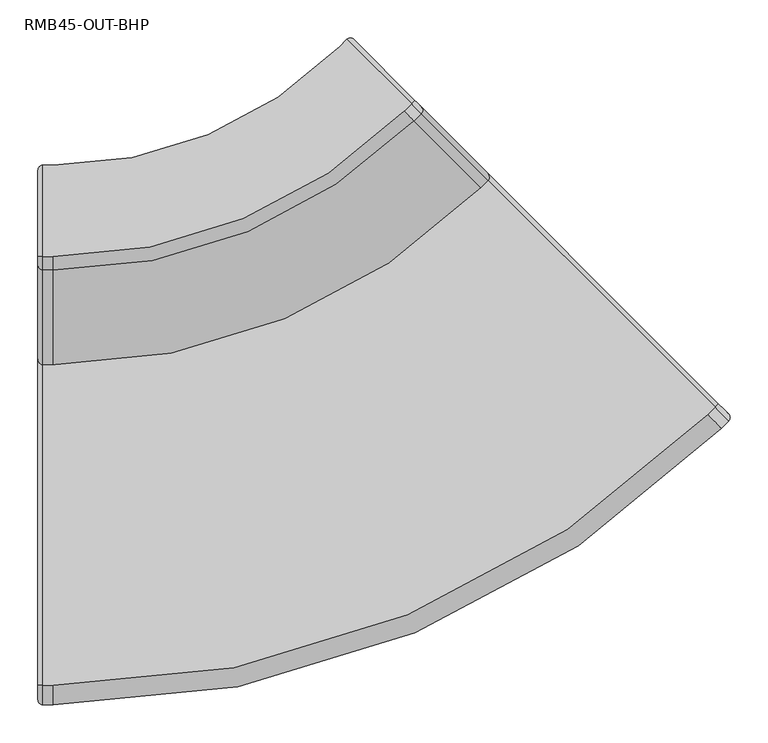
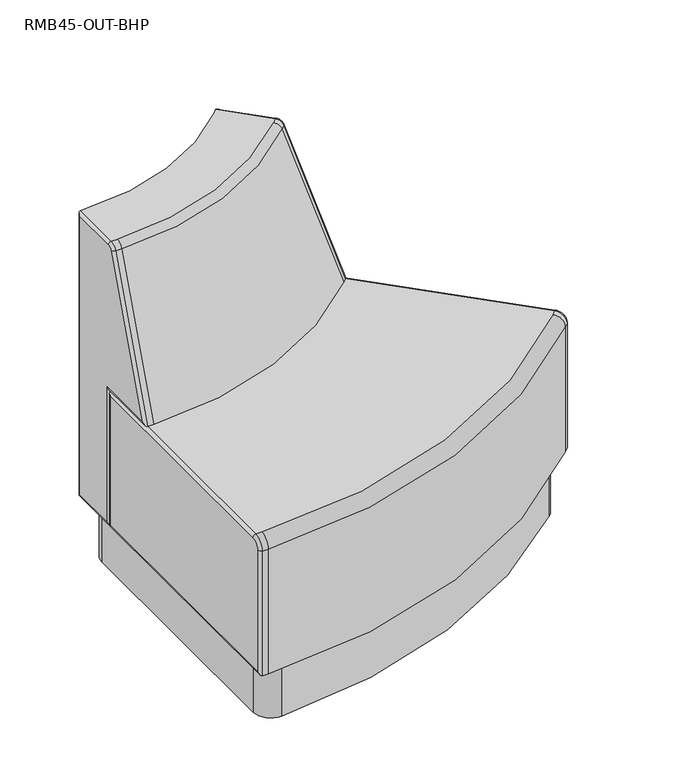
"""IFC4 building model written with IfcOpenShell, lengths in millimetres: furniture geometry, Stance_HC-Rosetta-45_Curve_Outside_Plinth_Base : RMB45-OUT-BHP."""

from ifc_helpers import new_model, si_unit, point, frame, frame_2d, origin, origin_with_axes, place, context, project, spatial, polyline, circle_curve, ellipse_curve, trimmed, segment, composite_curve, outline, extrude, source, transform, mapped, element, save
from ifc_brep_helpers import plane_surface, cylinder_surface, revolved_surface, advanced_brep


def rmb45_out_bhp_de5602b4(model_context):
    return source(origin(), model_context, "Body", "SolidModel", [
        extrude(outline(composite_curve([segment(trimmed(circle_curve(frame_2d((410.6900803, 86.7134085)), 39.6875), [point((384.5671481, 116.5913279))], [point((438.7533807, 114.7767088))], False, "CARTESIAN"), True, "CONTINUOUS"), segment(polyline([(438.7533807, 114.7767088), (857.3882175, -303.858128)]), True, "CONTINUOUS"), segment(trimmed(circle_curve(frame_2d((829.3249171, -331.9214284)), 39.6875), [point((857.3882175, -303.858128))], [point((856.4322562, -360.9091814))], False, "CARTESIAN"), True, "CONTINUOUS"), segment(trimmed(circle_curve(frame_2d((20.225, 533.3050895)), 1224.2800895), [point((856.4322562, -360.9091814))], [point((61.2421535, -690.2877066))], False, "CARTESIAN"), True, "CONTINUOUS"), segment(trimmed(circle_curve(frame_2d((59.9125, -650.6224866)), 39.6875), [point((61.2421535, -690.2877066))], [point((20.225, -650.6224866))], False, "CARTESIAN"), True, "CONTINUOUS"), segment(polyline([(20.225, -650.6224866), (20.225, -58.5834227)]), True, "CONTINUOUS"), segment(trimmed(circle_curve(frame_2d((59.9125, -58.5834227)), 39.6875), [point((20.225, -58.5834227))], [point((57.2573231, -18.9848407))], False, "CARTESIAN"), True, "CONTINUOUS"), segment(trimmed(circle_curve(frame_2d((20.225, 533.3050895)), 553.5300895), [point((57.2573231, -18.9848407))], [point((384.5671481, 116.5913279))], True, "CARTESIAN"), True, "CONTINUOUS")], self_intersect=False)), frame((0.0, 0.0, 6.3627), z_axis=(0.0, 0.0, 1.0), x_axis=(1.0, 0.0, 0.0)), (0.0, 0.0, 1.0), 128.51892),
        advanced_brep(
        [(482.6410784, 70.8890111, 457.2), (20.225, -120.65, 457.2), (6.35, -120.65, 457.2), (6.35, -685.7999758, 457.2), (20.225, -685.7999758, 457.2), (882.2624586, -328.7323691, 457.2), (892.0735652, -318.9212625, 457.2), (492.452185, 80.7001177, 457.2), (482.6410784, 70.8890111, 134.88162), (20.225, -120.65, 134.88162), (492.452185, 80.7001177, 134.88162), (910.0340775, -336.8817748, 134.88162), (900.2229709, -346.6928814, 134.88162), (20.225, -711.1999758, 134.88162), (6.35, -711.1999758, 134.88162), (6.35, -120.65, 134.88162), (900.2229709, -346.6928814, 431.8), (20.225, -711.1999758, 431.8), (910.0340775, -327.9015187, 431.8), (896.5636933, -314.4311345, 450.85), (910.0340775, -336.8817748, 431.8), (910.0340775, -327.9015187, 141.23162), (501.4324411, 80.7001177, 141.23162), (501.4324411, 80.7001177, 450.85), (0.0, -127.0, 141.23162), (0.0, -127.0, 450.85), (0.0, -704.8499758, 141.23162), (6.35, -711.1999758, 431.8), (0.0, -704.8499758, 431.8), (0.0, -685.7999758, 450.85)],
        [
            (0, 1, circle_curve(frame((20.225, 533.3050895, 457.2), z_axis=(0.0, 0.0, -1.0), x_axis=(0.0, -1.0, 0.0)), 653.9550895)),
            (1, 2),
            (2, 3),
            (3, 4),
            (4, 5, circle_curve(frame((20.225, 533.3050895, 457.2), z_axis=(0.0, 0.0, 1.0), x_axis=(0.0, -1.0, 0.0)), 1219.1050653)),
            (5, 6),
            (6, 7),
            (7, 0),
            (0, 8),
            (8, 9, circle_curve(frame((20.225, 533.3050895, 134.88162), z_axis=(0.0, 0.0, -1.0), x_axis=(0.0, -1.0, 0.0)), 653.9550895)),
            (9, 1),
            (8, 10),
            (10, 11),
            (11, 12),
            (12, 13, circle_curve(frame((20.225, 533.3050895, 134.88162), z_axis=(0.0, 0.0, -1.0), x_axis=(0.0, -1.0, 0.0)), 1244.5050653)),
            (13, 14),
            (14, 15),
            (15, 9),
            (12, 16),
            (16, 17, circle_curve(frame((20.225, 533.3050895, 431.8), z_axis=(0.0, 0.0, -1.0), x_axis=(0.0, -1.0, 0.0)), 1244.5050653)),
            (17, 13),
            (4, 17, circle_curve(frame((20.225, -685.7999758, 431.8), z_axis=(1.0, 0.0, 0.0), x_axis=(0.0, 1.0, 0.0)), 25.4)),
            (16, 5, circle_curve(frame((882.2624586, -328.7323691, 431.8), z_axis=(-0.7071067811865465, -0.7071067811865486, 0.0), x_axis=(-0.7071067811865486, 0.7071067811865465, 0.0)), 25.4)),
            (18, 19, circle_curve(frame((896.5636933, -314.4311345, 431.8), z_axis=(-0.7071067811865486, -0.7071067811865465, 0.0), x_axis=(0.0, 0.0, 1.0)), 19.05)),
            (19, 6, circle_curve(frame((892.0735652, -318.9212625, 450.85), z_axis=(0.7071067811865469, -0.7071067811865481, 0.0), x_axis=(0.0, 0.0, -1.0)), 6.35)),
            (6, 20, circle_curve(frame((892.0735652, -318.9212625, 431.8), z_axis=(0.7071067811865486, 0.7071067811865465, 0.0), x_axis=(0.0, 0.0, 1.0)), 25.4)),
            (20, 18, circle_curve(frame((905.5439494, -332.3916467, 431.8), z_axis=(0.0, 0.0, 1.0), x_axis=(-0.7071067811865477, 0.7071067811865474, 0.0)), 6.35)),
            (16, 20),
            (20, 11),
            (11, 21, ellipse_curve(frame((905.5439494, -332.3916467, 141.23162), z_axis=(0.4999999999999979, -0.5000000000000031, 0.7071067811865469), x_axis=(-0.5000000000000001, 0.49999999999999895, 0.707106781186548)), 8.9802561, 6.35)),
            (21, 18),
            (10, 22, ellipse_curve(frame((496.942313, 76.2099897, 141.23162), z_axis=(0.49999999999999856, -0.4999999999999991, -0.707106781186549), x_axis=(0.49999999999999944, -0.500000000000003, 0.7071067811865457)), 8.9802561, 6.35)),
            (22, 21),
            (10, 7),
            (7, 23, ellipse_curve(frame((496.942313, 76.2099897, 450.85), z_axis=(-0.49999999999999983, 0.5000000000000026, -0.7071067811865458), x_axis=(0.4999999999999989, -0.49999999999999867, -0.7071067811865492)), 8.9802561, 6.35)),
            (23, 22),
            (19, 23),
            (15, 2),
            (15, 24, ellipse_curve(frame((6.35, -127.0, 141.23162), z_axis=(0.0, 0.7071067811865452, 0.7071067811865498), x_axis=(0.0, -0.7071067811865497, 0.7071067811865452)), 8.9802561, 6.35)),
            (24, 25),
            (25, 2, ellipse_curve(frame((6.35, -127.0, 450.85), z_axis=(0.0, 0.7071067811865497, -0.7071067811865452), x_axis=(0.0, 0.7071067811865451, 0.7071067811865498)), 8.9802561, 6.35)),
            (14, 26, ellipse_curve(frame((6.35, -704.8499758, 141.23162), z_axis=(0.0, 0.7071067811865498, -0.7071067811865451), x_axis=(0.0, 0.7071067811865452, 0.7071067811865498)), 8.9802561, 6.35)),
            (26, 24),
            (17, 27),
            (27, 14),
            (27, 28, circle_curve(frame((6.35, -704.8499758, 431.8), z_axis=(0.0, 0.0, -1.0), x_axis=(0.0, -1.0, 0.0)), 6.35)),
            (28, 26),
            (3, 27, circle_curve(frame((6.35, -685.7999758, 431.8), z_axis=(1.0, 0.0, 0.0), x_axis=(0.0, -1.0, 0.0)), 25.4)),
            (3, 29, circle_curve(frame((6.35, -685.7999758, 450.85), z_axis=(0.0, -1.0, 0.0), x_axis=(0.0, 0.0, 1.0)), 6.35)),
            (29, 28, circle_curve(frame((0.0, -685.7999758, 431.8), z_axis=(1.0, 0.0, 0.0), x_axis=(0.0, -1.0, 0.0)), 19.05)),
            (25, 29),
        ],
        [
            plane_surface(frame((20.225, 533.3050895, 457.2), z_axis=(0.0, 0.0, 1.0), x_axis=(0.0, -1.0, 0.0))),
            revolved_surface(polyline([(20.225, -120.64999999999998, 457.2), (20.225, -120.64999999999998, 134.88162)]), (20.225, 533.3050895, 618.9648354), (0.0, 0.0, 1.0)),
            plane_surface(frame((20.225, 533.3050895, 134.88162), z_axis=(0.0, 0.0, -1.0), x_axis=(0.0, -1.0, 0.0))),
            cylinder_surface(frame((20.225, 533.3050895, 618.9648354), z_axis=(0.0, 0.0, 1.0), x_axis=(0.0, -1.0, 0.0)), 1244.5050653),
            revolved_surface(trimmed(ellipse_curve(frame((20.225, -685.7999758, 431.8), z_axis=(-1.0, 0.0, 0.0), x_axis=(0.0, 1.0, 0.0)), 25.4, 25.4), [point((20.225, -711.1999758, 431.8))], [point((20.225, -685.7999758, 457.2))], True, "CARTESIAN"), (20.225, 533.3050895, 618.9648354), (0.0, 0.0, 1.0)),
            revolved_surface(trimmed(ellipse_curve(frame((892.0735652, -318.9212625, 450.85), z_axis=(-0.7071067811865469, 0.7071067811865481, 0.0), x_axis=(0.0, 0.0, -1.0)), 6.35, 6.35), [point((892.0735652, -318.9212625, 457.2))], [point((896.5636933, -314.4311345, 450.85))], True, "CARTESIAN"), (882.2624586, -328.7323691, 431.8), (0.7071067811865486, 0.7071067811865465, 0.0)),
            cylinder_surface(frame((882.2624586, -328.7323691, 431.8), z_axis=(0.7071067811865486, 0.7071067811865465, 0.0), x_axis=(0.0, 0.0, 1.0)), 25.4),
            cylinder_surface(frame((905.5439494, -332.3916467, 431.8), z_axis=(0.0, 0.0, 1.0), x_axis=(-0.7071067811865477, 0.7071067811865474, 0.0)), 6.35),
            plane_surface(frame((900.2229709, -346.6928814, 431.8), z_axis=(0.7071067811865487, -0.7071067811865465, 0.0), x_axis=(0.0, 0.0, -1.0))),
            cylinder_surface(frame((910.0340775, -336.8817748, 141.23162), z_axis=(0.7071067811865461, -0.707106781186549, 0.0), x_axis=(0.0, 0.0, 1.0)), 6.35),
            cylinder_surface(frame((496.942313, 76.2099897, 134.88162), z_axis=(0.0, 0.0, -1.0000000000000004), x_axis=(0.7071067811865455, -0.7071067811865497, 0.0)), 6.35),
            plane_surface(frame((482.6410784, 70.8890111, 134.88162), z_axis=(-0.7071067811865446, 0.7071067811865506, 0.0), x_axis=(0.0, 0.0, 1.0))),
            cylinder_surface(frame((492.452185, 80.7001177, 450.85), z_axis=(-0.7071067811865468, 0.7071067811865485, 0.0), x_axis=(0.0, 0.0, -1.0)), 6.35),
            plane_surface(frame((501.4324411, 80.7001177, 450.85), z_axis=(0.7071067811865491, 0.7071067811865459, 0.0), x_axis=(0.7071067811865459, -0.7071067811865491, 0.0))),
            plane_surface(frame((20.225, -120.65, 457.2), z_axis=(0.0, 1.0, 0.0), x_axis=(0.0, 0.0, -1.0))),
            cylinder_surface(frame((6.35, -127.0, 457.2), z_axis=(0.0, 0.0, 1.0), x_axis=(0.0, 1.0, 0.0)), 6.35),
            cylinder_surface(frame((6.35, -120.65, 141.23162), z_axis=(0.0, 1.0, 0.0), x_axis=(0.0, 0.0, -1.0)), 6.35),
            plane_surface(frame((20.225, -711.1999758, 134.88162), z_axis=(0.0, -1.0, 0.0), x_axis=(0.0, 0.0, 1.0))),
            cylinder_surface(frame((6.35, -704.8499758, 134.88162), z_axis=(0.0, 0.0, -1.0), x_axis=(0.0, -1.0, 0.0)), 6.35),
            cylinder_surface(frame((0.0, -685.7999758, 431.8), z_axis=(-1.0, 0.0, 0.0), x_axis=(0.0, -1.0, 0.0)), 25.4),
            revolved_surface(trimmed(ellipse_curve(frame((6.35, -704.8499758, 431.8), z_axis=(0.0, 0.0, -1.0), x_axis=(0.0, -1.0, 0.0)), 6.35, 6.35), [point((6.35, -711.1999758, 431.8))], [point((0.0, -704.8499758, 431.8))], True, "CARTESIAN"), (0.0, -685.7999758, 431.8), (-1.0, 0.0, 0.0)),
            cylinder_surface(frame((6.35, -685.7999758, 450.85), z_axis=(0.0, -1.0, 0.0), x_axis=(0.0, 0.0, 1.0)), 6.35),
            plane_surface(frame((0.0, -685.7999758, 450.85), z_axis=(-1.0, 0.0, 0.0), x_axis=(0.0, 1.0, 0.0))),
        ],
        [
            (0, [[1, 2, 3, 4, 5, 6, 7, 8]]),
            (1, [[-1, 9, 10, 11]]),
            (2, [[-10, 12, 13, 14, 15, 16, 17, 18]]),
            (3, [[-15, 19, 20, 21]]),
            (4, [[-5, 22, -20, 23]]),
            (5, [[24, 25, 26, 27]]),
            (6, [[-26, -6, -23, 28]]),
            (7, [[-27, 29, 30, 31]]),
            (8, [[-28, -19, -14, -29]]),
            (9, [[-30, -13, 32, 33]]),
            (10, [[-32, 34, 35, 36]]),
            (11, [[-12, -9, -8, -34]]),
            (12, [[-25, 37, -35, -7]]),
            (13, [[-24, -31, -33, -36, -37]]),
            (14, [[-2, -11, -18, 38]]),
            (15, [[-38, 39, 40, 41]]),
            (16, [[-39, -17, 42, 43]]),
            (17, [[-16, -21, 44, 45]]),
            (18, [[-42, -45, 46, 47]]),
            (19, [[-44, -22, -4, 48]]),
            (20, [[-46, -48, 49, 50]]),
            (21, [[-41, 51, -49, -3]]),
            (22, [[-40, -43, -47, -50, -51]]),
        ],
    ),
        advanced_brep(
        [(583.3989879, -29.8688984, 457.2), (20.225, -263.1432022, 457.2), (6.35, -263.1432022, 457.2), (6.35, -120.65, 457.2), (20.225, -120.65, 457.2), (482.6410784, 70.8890111, 457.2), (492.452185, 80.7001177, 457.2), (593.2100945, -20.0577918, 457.2), (495.1056581, 58.4244314, 800.2654837), (20.225, -138.2775777, 800.2654837), (482.4476375, 71.082452, 812.8), (20.225, -120.3764333, 812.8), (492.2587441, 80.8935586, 812.8), (407.1397518, 166.0125509, 812.8), (397.3286452, 156.2014443, 812.8), (20.225, 0.0, 812.8), (6.35, 0.0, 812.8), (6.35, -120.3764333, 812.8), (397.3286452, 156.2014443, 134.88162), (20.225, 0.0, 134.88162), (407.1397518, 166.0125509, 134.88162), (492.452185, 80.7001177, 134.88162), (482.6410784, 70.8890111, 134.88162), (20.225, -120.65, 134.88162), (6.35, -120.65, 134.88162), (6.35, 0.0, 134.88162), (0.0, -6.35, 141.23162), (0.0, -6.35, 806.45), (0.0, -114.3, 141.23162), (0.0, -114.3, 463.55), (0.0, -254.0744624, 463.55), (6.35, -138.2775777, 800.2654837), (0.0, -132.3105296, 798.0936558), (0.0, -120.3764333, 806.45), (505.1875526, 76.9450062, 798.0936558), (496.7488722, 85.3836867, 806.45), (504.9167647, 68.235538, 800.2654837), (591.2876551, -9.1550963, 463.55), (492.452185, 89.6803738, 463.55), (492.452185, 89.6803738, 141.23162), (416.1200079, 166.0125509, 141.23162), (416.1200079, 166.0125509, 806.45)],
        [
            (0, 1, circle_curve(frame((20.225, 533.3050895, 457.2), z_axis=(0.0, 0.0, -1.0), x_axis=(0.0, -1.0, 0.0)), 796.4482917)),
            (1, 2),
            (2, 3),
            (3, 4),
            (4, 5, circle_curve(frame((20.225, 533.3050895, 457.2), z_axis=(0.0, 0.0, 1.0), x_axis=(0.0, -1.0, 0.0)), 653.9550895)),
            (5, 6),
            (6, 7),
            (7, 0),
            (0, 8),
            (8, 9, circle_curve(frame((20.225, 533.3050895, 800.2654837), z_axis=(0.0, 0.0, -1.0), x_axis=(0.0, -1.0, 0.0)), 671.5826672)),
            (9, 1),
            (8, 10, circle_curve(frame((482.4476375, 71.082452, 793.75), z_axis=(-0.7071067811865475, -0.7071067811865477, 0.0), x_axis=(-0.7071067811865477, 0.7071067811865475, 0.0)), 19.05)),
            (10, 11, circle_curve(frame((20.225, 533.3050895, 812.8), z_axis=(0.0, 0.0, -1.0), x_axis=(0.0, -1.0, 0.0)), 653.6815228)),
            (11, 9, circle_curve(frame((20.225, -120.3764333, 793.75), z_axis=(1.0, 0.0, 0.0), x_axis=(0.0, 1.0, 0.0)), 19.05)),
            (10, 12),
            (12, 13),
            (13, 14),
            (14, 15, circle_curve(frame((20.225, 533.3050895, 812.8), z_axis=(0.0, 0.0, -1.0), x_axis=(0.0, -1.0, 0.0)), 533.3050895)),
            (15, 16),
            (16, 17),
            (17, 11),
            (14, 18),
            (18, 19, circle_curve(frame((20.225, 533.3050895, 134.88162), z_axis=(0.0, 0.0, -1.0), x_axis=(0.0, -1.0, 0.0)), 533.3050895)),
            (19, 15),
            (18, 20),
            (20, 21),
            (21, 22),
            (22, 23, circle_curve(frame((20.225, 533.3050895, 134.88162), z_axis=(0.0, 0.0, -1.0), x_axis=(0.0, -1.0, 0.0)), 653.9550895)),
            (23, 24),
            (24, 25),
            (25, 19),
            (4, 23),
            (22, 5),
            (25, 16),
            (25, 26, ellipse_curve(frame((6.35, -6.35, 141.23162), z_axis=(0.0, 0.707106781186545, 0.7071067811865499), x_axis=(0.0, -0.7071067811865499, 0.7071067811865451)), 8.9802561, 6.35)),
            (26, 27),
            (27, 16, ellipse_curve(frame((6.35, -6.35, 806.45), z_axis=(0.0, 0.7071067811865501, -0.7071067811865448), x_axis=(0.0, 0.7071067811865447, 0.7071067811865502)), 8.9802561, 6.35)),
            (24, 28, ellipse_curve(frame((6.35, -114.3, 141.23162), z_axis=(0.0, 0.70710678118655, -0.707106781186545), x_axis=(0.0, 0.707106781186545, 0.70710678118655)), 8.9802561, 6.35)),
            (28, 26),
            (3, 24),
            (3, 29, ellipse_curve(frame((6.35, -114.3, 463.55), z_axis=(0.0, 0.7071067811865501, -0.7071067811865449), x_axis=(0.0, -0.7071067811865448, -0.7071067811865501)), 8.9802561, 6.35)),
            (29, 28),
            (2, 30, ellipse_curve(frame((6.35, -254.0744624, 463.55), z_axis=(0.0, 0.5735764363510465, -0.8191520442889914), x_axis=(0.0, 0.8191520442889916, 0.5735764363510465)), 11.0708872, 6.35)),
            (30, 29),
            (9, 31),
            (31, 2),
            (31, 32, circle_curve(frame((6.35, -132.3105296, 798.0936558), z_axis=(0.0, -0.3420201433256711, -0.9396926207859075), x_axis=(0.0, -0.9396926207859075, 0.3420201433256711)), 6.35)),
            (32, 30),
            (17, 31, circle_curve(frame((6.35, -120.3764333, 793.75), z_axis=(1.0, 0.0, 0.0), x_axis=(0.0, -0.9396926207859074, 0.34202014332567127)), 19.05)),
            (17, 33, circle_curve(frame((6.35, -120.3764333, 806.45), z_axis=(0.0, -1.0, 0.0), x_axis=(0.0, 0.0, 1.0)), 6.35)),
            (33, 32, circle_curve(frame((0.0, -120.3764333, 793.75), z_axis=(1.0, 0.0, 0.0), x_axis=(0.0, -0.9396926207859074, 0.34202014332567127)), 12.7)),
            (27, 33),
            (34, 35, circle_curve(frame((496.7488722, 85.3836867, 793.75), z_axis=(-0.7071067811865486, -0.7071067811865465, 0.0), x_axis=(0.0, 0.0, 1.0)), 12.7)),
            (35, 12, circle_curve(frame((492.2587441, 80.8935586, 806.45), z_axis=(0.7071067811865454, -0.7071067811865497, 0.0), x_axis=(0.0, 0.0, -1.0)), 6.35)),
            (12, 36, circle_curve(frame((492.2587441, 80.8935586, 793.75), z_axis=(0.7071067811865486, 0.7071067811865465, 0.0), x_axis=(0.0, 0.0, 1.0)), 19.05)),
            (36, 34, circle_curve(frame((500.6974245, 72.4548782, 798.0936558), z_axis=(-0.2418447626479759, 0.2418447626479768, 0.9396926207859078), x_axis=(-0.6644630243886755, 0.664463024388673, -0.34202014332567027)), 6.35)),
            (8, 36),
            (36, 7),
            (7, 37, ellipse_curve(frame((586.7975271, -13.6452244, 463.55), z_axis=(0.40557978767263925, -0.40557978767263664, 0.8191520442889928), x_axis=(-0.5792279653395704, 0.5792279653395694, 0.5735764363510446)), 11.0708872, 6.35)),
            (37, 34),
            (6, 38, ellipse_curve(frame((487.9620569, 85.1902458, 463.55), z_axis=(0.5000000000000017, -0.4999999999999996, 0.7071067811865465), x_axis=(0.5, -0.4999999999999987, -0.7071067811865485)), 8.9802561, 6.35)),
            (38, 37),
            (6, 21),
            (21, 39, ellipse_curve(frame((487.9620569, 85.1902458, 141.23162), z_axis=(0.5000000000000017, -0.4999999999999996, 0.7071067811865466), x_axis=(-0.49999999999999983, 0.49999999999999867, 0.7071067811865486)), 8.9802561, 6.35)),
            (39, 38),
            (20, 40, ellipse_curve(frame((411.6298799, 161.5224228, 141.23162), z_axis=(0.5000000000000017, -0.49999999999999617, -0.7071067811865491), x_axis=(0.5, -0.5000000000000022, 0.7071067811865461)), 8.9802561, 6.35)),
            (40, 39),
            (20, 13),
            (13, 41, ellipse_curve(frame((411.6298799, 161.5224228, 806.45), z_axis=(-0.49999999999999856, 0.500000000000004, -0.7071067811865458), x_axis=(0.5000000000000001, -0.4999999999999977, -0.7071067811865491)), 8.9802561, 6.35)),
            (41, 40),
            (35, 41),
        ],
        [
            plane_surface(frame((20.225, 533.3050895, 457.2), z_axis=(0.0, 0.0, -1.0), x_axis=(0.0, -1.0, 0.0))),
            revolved_surface(polyline([(20.225, -263.1432022, 457.2), (20.225, -138.2775777, 800.2654837)]), (20.225, 533.3050895, 618.9648354), (0.0, 0.0, 1.0)),
            revolved_surface(trimmed(ellipse_curve(frame((20.225, -120.3764333, 793.75), z_axis=(-1.0, 0.0, 0.0), x_axis=(0.0, 1.0, 0.0)), 19.05, 19.05), [point((20.225, -138.2775777, 800.2654837))], [point((20.225, -120.3764333, 812.8))], True, "CARTESIAN"), (20.225, 533.3050895, 618.9648354), (0.0, 0.0, 1.0)),
            plane_surface(frame((20.225, 533.3050895, 812.8), z_axis=(0.0, 0.0, 1.0), x_axis=(0.0, -1.0, 0.0))),
            revolved_surface(polyline([(20.225, 0.0, 812.8), (20.225, 0.0, 134.88162)]), (20.225, 533.3050895, 618.9648354), (0.0, 0.0, 1.0)),
            plane_surface(frame((20.225, 533.3050895, 134.88162), z_axis=(0.0, 0.0, -1.0), x_axis=(0.0, -1.0, 0.0))),
            cylinder_surface(frame((20.225, 533.3050895, 618.9648354), z_axis=(0.0, 0.0, 1.0), x_axis=(0.0, -1.0, 0.0)), 653.9550895),
            plane_surface(frame((20.225, 0.0, 812.8), z_axis=(0.0, 1.0, 0.0), x_axis=(0.0, 0.0, -1.0))),
            cylinder_surface(frame((6.35, -6.35, 812.8), z_axis=(0.0, 0.0, 1.0), x_axis=(0.0, 1.0, 0.0)), 6.35),
            cylinder_surface(frame((6.35, 0.0, 141.23162), z_axis=(0.0, 1.0, 0.0), x_axis=(0.0, 0.0, -1.0)), 6.35),
            plane_surface(frame((20.225, -120.65, 134.88162), z_axis=(0.0, -1.0, 0.0), x_axis=(0.0, 0.0, 1.0))),
            cylinder_surface(frame((6.35, -114.3, 134.88162), z_axis=(0.0, 0.0, -1.0), x_axis=(0.0, -1.0, 0.0)), 6.35),
            cylinder_surface(frame((6.35, -120.65, 463.55), z_axis=(0.0, 1.0, 0.0), x_axis=(0.0, 0.0, -1.0)), 6.35),
            plane_surface(frame((20.225, -263.1432022, 457.2), z_axis=(0.0, -0.9396926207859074, 0.3420201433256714), x_axis=(0.0, 0.3420201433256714, 0.9396926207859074))),
            cylinder_surface(frame((6.35, -257.1761541, 455.0281721), z_axis=(0.0, -0.3420201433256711, -0.9396926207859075), x_axis=(0.0, -0.9396926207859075, 0.3420201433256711)), 6.35),
            cylinder_surface(frame((0.0, -120.3764333, 793.75), z_axis=(-1.0, 0.0, 0.0), x_axis=(0.0, -0.9396926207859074, 0.34202014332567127)), 19.05),
            revolved_surface(trimmed(ellipse_curve(frame((6.35, -132.3105296, 798.0936558), z_axis=(0.0, -0.3420201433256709, -0.9396926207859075), x_axis=(0.0, -0.9396926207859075, 0.3420201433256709)), 6.35, 6.35), [point((6.35, -138.2775777, 800.2654837))], [point((0.0, -132.3105296, 798.0936558))], True, "CARTESIAN"), (0.0, -120.3764333, 793.75), (-1.0, 0.0, 0.0)),
            cylinder_surface(frame((6.35, -120.3764333, 806.45), z_axis=(0.0, -1.0, 0.0), x_axis=(0.0, 0.0, 1.0)), 6.35),
            plane_surface(frame((0.0, -120.3764333, 806.45), z_axis=(-1.0, 0.0, 0.0), x_axis=(0.0, 1.0, 0.0))),
            revolved_surface(trimmed(ellipse_curve(frame((492.2587441, 80.8935586, 806.45), z_axis=(-0.7071067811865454, 0.7071067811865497, 0.0), x_axis=(0.0, 0.0, -1.0)), 6.35, 6.35), [point((492.2587441, 80.8935586, 812.8))], [point((496.7488722, 85.3836867, 806.45))], True, "CARTESIAN"), (482.4476375, 71.082452, 793.75), (0.7071067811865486, 0.7071067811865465, 0.0)),
            cylinder_surface(frame((482.4476375, 71.082452, 793.75), z_axis=(0.7071067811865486, 0.7071067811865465, 0.0), x_axis=(0.0, 0.0, 1.0)), 19.05),
            cylinder_surface(frame((500.6974245, 72.4548782, 798.0936558), z_axis=(-0.24184476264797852, 0.2418447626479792, 0.9396926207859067), x_axis=(-0.6644630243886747, 0.6644630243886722, -0.34202014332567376)), 6.35),
            plane_surface(frame((495.1056581, 58.4244314, 800.2654837), z_axis=(0.6644630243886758, -0.6644630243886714, 0.3420201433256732), x_axis=(0.24184476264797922, -0.24184476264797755, -0.9396926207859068))),
            cylinder_surface(frame((593.2100945, -20.0577918, 463.55), z_axis=(0.7071067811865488, -0.7071067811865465, 0.0), x_axis=(0.0, 0.0, 1.0)), 6.35),
            cylinder_surface(frame((487.9620569, 85.1902458, 457.2), z_axis=(0.0, 0.0, 1.0000000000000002), x_axis=(-0.707106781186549, 0.707106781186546, 0.0)), 6.35),
            plane_surface(frame((482.6410784, 70.8890111, 457.2), z_axis=(0.7071067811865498, -0.7071067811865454, 0.0), x_axis=(0.0, 0.0, -1.0))),
            cylinder_surface(frame((492.452185, 80.7001177, 141.23162), z_axis=(0.7071067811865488, -0.7071067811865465, 0.0), x_axis=(0.0, 0.0, 1.0)), 6.35),
            cylinder_surface(frame((411.6298799, 161.5224228, 134.88162), z_axis=(0.0, 0.0, -1.0), x_axis=(0.7071067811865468, -0.7071067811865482, 0.0)), 6.35),
            plane_surface(frame((397.3286452, 156.2014443, 134.88162), z_axis=(-0.7071067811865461, 0.7071067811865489, 0.0), x_axis=(0.0, 0.0, 1.0))),
            cylinder_surface(frame((407.1397518, 166.0125509, 806.45), z_axis=(-0.7071067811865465, 0.7071067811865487, 0.0), x_axis=(0.0, 0.0, -1.0)), 6.35),
            plane_surface(frame((416.1200079, 166.0125509, 806.45), z_axis=(0.7071067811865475, 0.7071067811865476, 0.0), x_axis=(0.7071067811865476, -0.7071067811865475, 0.0))),
        ],
        [
            (0, [[1, 2, 3, 4, 5, 6, 7, 8]]),
            (1, [[-1, 9, 10, 11]]),
            (2, [[-10, 12, 13, 14]]),
            (3, [[-13, 15, 16, 17, 18, 19, 20, 21]]),
            (4, [[-18, 22, 23, 24]]),
            (5, [[-23, 25, 26, 27, 28, 29, 30, 31]]),
            (6, [[-5, 32, -28, 33]]),
            (7, [[-19, -24, -31, 34]]),
            (8, [[-34, 35, 36, 37]]),
            (9, [[-35, -30, 38, 39]]),
            (10, [[-29, -32, -4, 40]]),
            (11, [[-38, -40, 41, 42]]),
            (12, [[-41, -3, 43, 44]]),
            (13, [[-2, -11, 45, 46]]),
            (14, [[-43, -46, 47, 48]]),
            (15, [[-45, -14, -21, 49]]),
            (16, [[-47, -49, 50, 51]]),
            (17, [[-37, 52, -50, -20]]),
            (18, [[-36, -39, -42, -44, -48, -51, -52]]),
            (19, [[53, 54, 55, 56]]),
            (20, [[-55, -15, -12, 57]]),
            (21, [[-56, 58, 59, 60]]),
            (22, [[-57, -9, -8, -58]]),
            (23, [[-59, -7, 61, 62]]),
            (24, [[-61, 63, 64, 65]]),
            (25, [[-6, -33, -27, -63]]),
            (26, [[-64, -26, 66, 67]]),
            (27, [[-66, 68, 69, 70]]),
            (28, [[-25, -22, -17, -68]]),
            (29, [[-54, 71, -69, -16]]),
            (30, [[-53, -60, -62, -65, -67, -70, -71]]),
        ],
    ),
        extrude(outline(composite_curve([segment(trimmed(circle_curve(frame_2d((55.5750901, -53.9630245)), 11.90625), [point((55.5750901, -65.8692745))], [point((55.5750901, -42.0567745))], False, "CARTESIAN"), True, "CONTINUOUS"), segment(trimmed(circle_curve(frame_2d((55.5750901, -53.9630245)), 11.90625), [point((55.5750901, -42.0567745))], [point((55.5750901, -65.8692745))], False, "CARTESIAN"), True, "CONTINUOUS")], self_intersect=False)), origin_with_axes(), (0.0, 0.0, 1.0), 6.3627),
        extrude(outline(composite_curve([segment(trimmed(circle_curve(frame_2d((55.5750901, -657.2369755)), 11.90625), [point((55.5750901, -669.1432255))], [point((55.5750901, -645.3307255))], False, "CARTESIAN"), True, "CONTINUOUS"), segment(trimmed(circle_curve(frame_2d((55.5750901, -657.2369755)), 11.90625), [point((55.5750901, -645.3307255))], [point((55.5750901, -669.1432255))], False, "CARTESIAN"), True, "CONTINUOUS")], self_intersect=False)), origin_with_axes(), (0.0, 0.0, 1.0), 6.3627),
        extrude(outline(composite_curve([segment(trimmed(circle_curve(frame_2d((410.4899774, 93.0475353)), 11.90625), [point((410.4899774, 81.1412853))], [point((410.4899774, 104.9537853))], False, "CARTESIAN"), True, "CONTINUOUS"), segment(trimmed(circle_curve(frame_2d((410.4899774, 93.0475353)), 11.90625), [point((410.4899774, 104.9537853))], [point((410.4899774, 81.1412853))], False, "CARTESIAN"), True, "CONTINUOUS")], self_intersect=False)), origin_with_axes(), (0.0, 0.0, 1.0), 6.3627),
        extrude(outline(composite_curve([segment(trimmed(circle_curve(frame_2d((837.069079, -333.5315663)), 11.90625), [point((837.069079, -345.4378163))], [point((837.069079, -321.6253163))], False, "CARTESIAN"), True, "CONTINUOUS"), segment(trimmed(circle_curve(frame_2d((837.069079, -333.5315663)), 11.90625), [point((837.069079, -321.6253163))], [point((837.069079, -345.4378163))], False, "CARTESIAN"), True, "CONTINUOUS")], self_intersect=False)), origin_with_axes(), (0.0, 0.0, 1.0), 6.3627),
    ])


if __name__ == "__main__":
    model = new_model("IFC4")
    model_context = context("Model", 3, world=origin())
    ifc_project = project(units=[si_unit("LENGTHUNIT", "METRE", prefix="MILLI")], contexts=[model_context])
    site = spatial("IfcSite", under=ifc_project)
    building = spatial("IfcBuilding", under=site)
    placement = place(None, origin())
    rmb45_out_bhp_shape = rmb45_out_bhp_de5602b4(model_context)
    element("IfcFurniture", 1, ObjectType="Stance_HC-Rosetta-45_Curve_Outside_Plinth_Base : RMB45-OUT-BHP", at=placement, inside=building, context=model_context, shape_type="MappedRepresentation", body=[
        mapped(rmb45_out_bhp_shape, transform((0.0, 0.0, 0.0), x_axis=(1.0, 0.0, 0.0), y_axis=(0.0, 1.0, 0.0), z_axis=(0.0, 0.0, 1.0))),
    ])
    save(model, "model.ifc")
